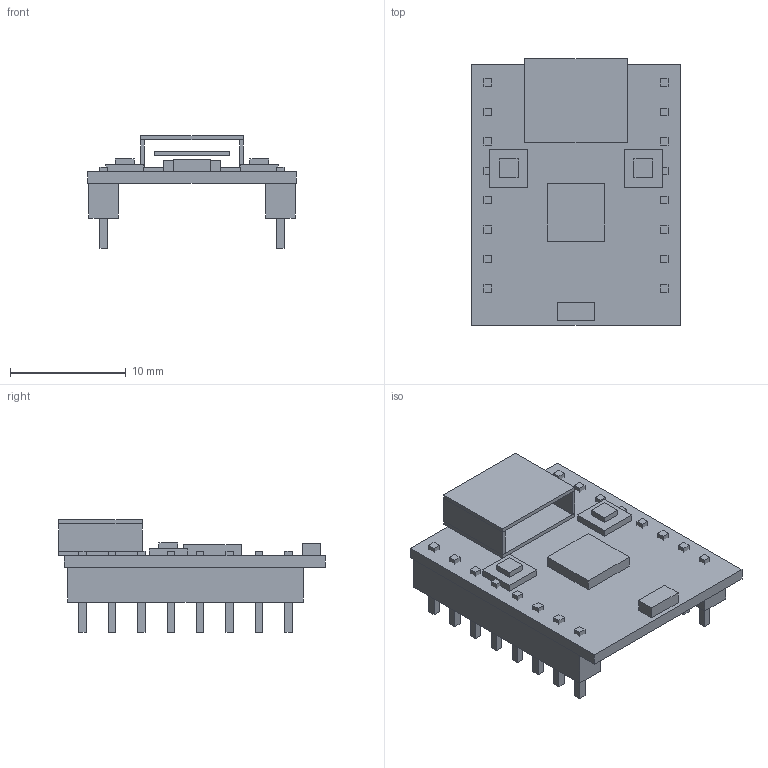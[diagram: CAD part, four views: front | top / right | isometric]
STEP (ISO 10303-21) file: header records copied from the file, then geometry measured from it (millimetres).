
FILE_DESCRIPTION(('FreeCAD Model'),'2;1');
FILE_NAME('Open CASCADE Shape Model','2026-09-21T21:53:17',('FreeCAD'),( 'FreeCAD'),'Open CASCADE STEP processor 7.8','FreeCAD','Unknown');
FILE_SCHEMA(('AUTOMOTIVE_DESIGN { 1 0 10303 214 1 1 1 1 }'));
Length unit declared in the file: millimetre
Products named in the file (1): Open CASCADE STEP translator 7.8 28
Bounding box: 18 x 23 x 9.7 mm (x, y, z)
Volume: 868.2 mm3; surface area: 2247.3 mm2
Topology: 30 solids, 30 shells, 180 faces, 360 edges, 240 vertices
Faces by surface type: plane 180
Entity records: 4516 total; most frequent: CARTESIAN_POINT 781, DIRECTION 722, ORIENTED_EDGE 720, EDGE_CURVE 360, LINE 360, VECTOR 360, VERTEX_POINT 240, AXIS2_PLACEMENT_3D 181
